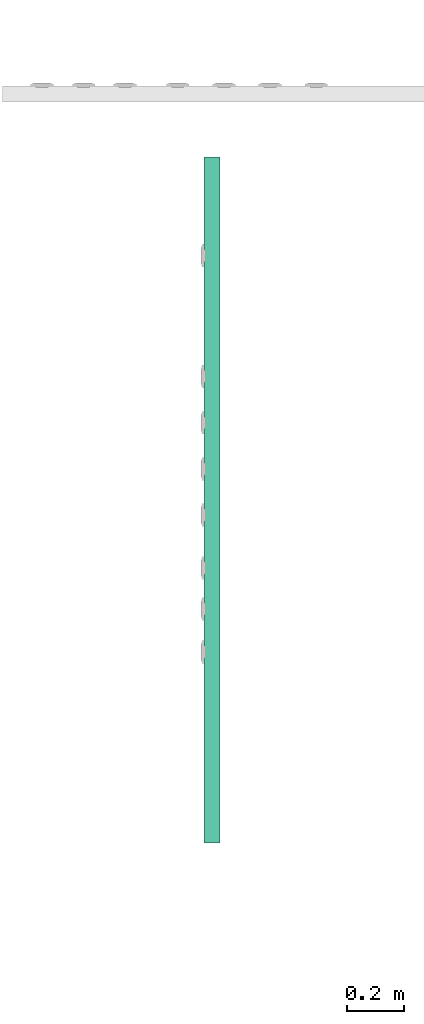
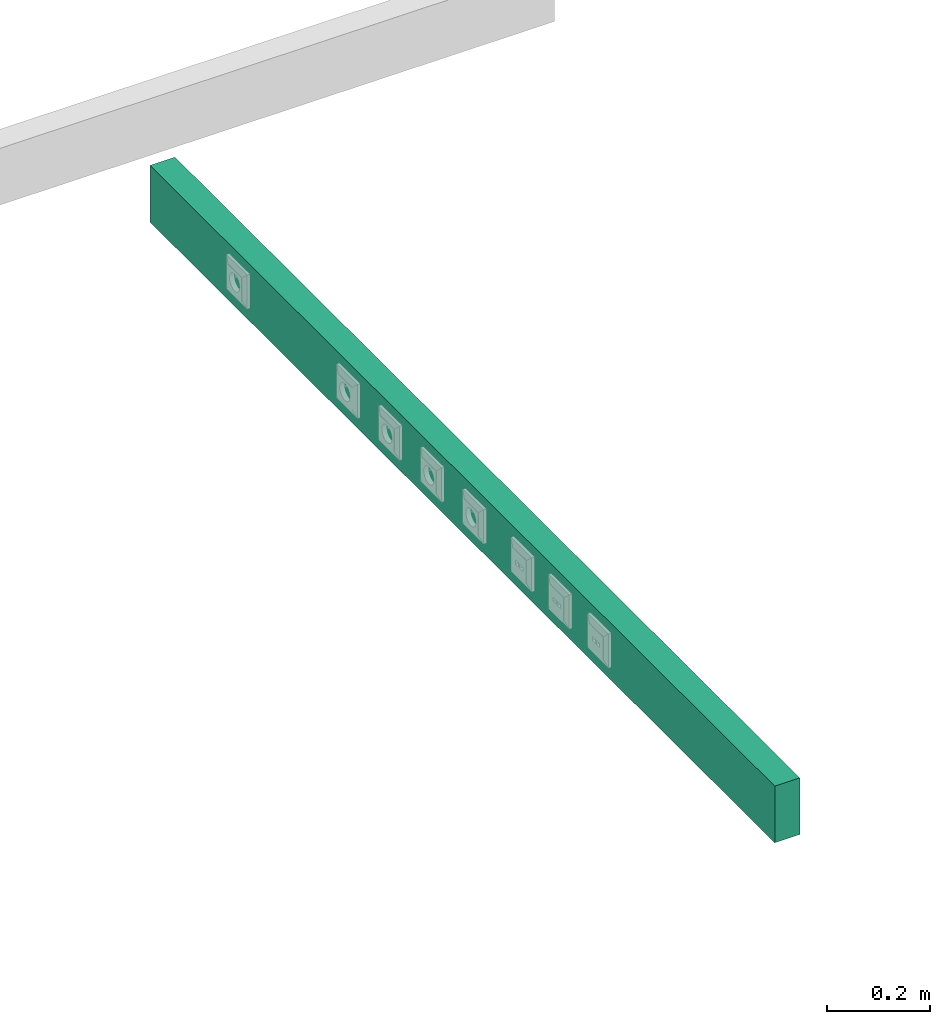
# One storey, part 1 of 166: 1 flow segment.
"""IFC2X3 building model written with IfcOpenShell, lengths in metres."""

from ifc_helpers import new_model, entity, si_unit, converted_unit, derived_unit, direction, frame, origin, origin_2d_with_axis, place, context, subcontext, project, spatial, rectangle, extrude, type_object, element, save


model = new_model("IFC2X3")

# Units and contexts
model_context = context("Model", 3, precision=1e-05, world=origin(), true_north=direction((6.12303176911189e-17, 1.0)))
body_context = subcontext(model_context, "Body", "Model", "MODEL_VIEW")
ifc_project = project(units=[si_unit("LENGTHUNIT", "METRE"), si_unit("AREAUNIT", "SQUARE_METRE"), si_unit("VOLUMEUNIT", "CUBIC_METRE"), converted_unit("PLANEANGLEUNIT", "DEGREE", entity("IfcRatioMeasure", 0.0174532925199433), si_unit("PLANEANGLEUNIT", "RADIAN"), dimensions=[0, 0, 0, 0, 0, 0, 0]), si_unit("MASSUNIT", "GRAM", prefix="KILO"), derived_unit("MASSDENSITYUNIT", [(si_unit("MASSUNIT", "GRAM", prefix="KILO"), 1), (si_unit("LENGTHUNIT", "METRE"), -3)]), si_unit("TIMEUNIT", "SECOND"), si_unit("FREQUENCYUNIT", "HERTZ"), si_unit("THERMODYNAMICTEMPERATUREUNIT", "DEGREE_CELSIUS"), derived_unit("THERMALTRANSMITTANCEUNIT", [(si_unit("MASSUNIT", "GRAM", prefix="KILO"), 1), (si_unit("THERMODYNAMICTEMPERATUREUNIT", "KELVIN"), -1), (si_unit("TIMEUNIT", "SECOND"), -3)]), derived_unit("VOLUMETRICFLOWRATEUNIT", [(si_unit("LENGTHUNIT", "METRE"), 3), (si_unit("TIMEUNIT", "SECOND"), -1)]), si_unit("ELECTRICCURRENTUNIT", "AMPERE"), si_unit("ELECTRICVOLTAGEUNIT", "VOLT"), si_unit("POWERUNIT", "WATT"), si_unit("FORCEUNIT", "NEWTON"), si_unit("ILLUMINANCEUNIT", "LUX"), si_unit("LUMINOUSFLUXUNIT", "LUMEN"), si_unit("LUMINOUSINTENSITYUNIT", "CANDELA"), derived_unit("USERDEFINED", [(si_unit("MASSUNIT", "GRAM", prefix="KILO"), -1), (si_unit("LENGTHUNIT", "METRE"), -2), (si_unit("TIMEUNIT", "SECOND"), 3), (si_unit("LUMINOUSFLUXUNIT", "LUMEN"), 1)]), derived_unit("LINEARVELOCITYUNIT", [(si_unit("LENGTHUNIT", "METRE"), 1), (si_unit("TIMEUNIT", "SECOND"), -1)]), si_unit("PRESSUREUNIT", "PASCAL"), derived_unit("USERDEFINED", [(si_unit("LENGTHUNIT", "METRE"), -2), (si_unit("MASSUNIT", "GRAM", prefix="KILO"), 1), (si_unit("TIMEUNIT", "SECOND"), -2)])], contexts=[model_context])

# Site, building, storey
site_placement = place(None, origin())
site = spatial("IfcSite", under=ifc_project, at=site_placement, Name="Default", CompositionType="ELEMENT")
building_placement = place(site_placement, origin())
building = spatial("IfcBuilding", under=site, at=building_placement, CompositionType="ELEMENT")
storey_placement = place(building_placement, frame((0.0, 0.0, 4.27)))
storey = spatial("IfcBuildingStorey", under=building, at=storey_placement, Name="01", CompositionType="ELEMENT", Elevation=4.27)

# Flow segment
cable_carrier_segment_type = type_object("IfcCableCarrierSegmentType", Name="Cable Tray with Fittings:Goulottes de câbles indéfini_Goulottes de câbles", PredefinedType="NOTDEFINED")
flow_segment_placement = place(storey_placement, origin())
element("IfcFlowSegment", 1, at=flow_segment_placement, inside=storey, type_object=cable_carrier_segment_type, Name="Cable Tray with Fittings:Goulottes de câbles indéfini_Goulottes de câbles", ObjectType="Cable Tray with Fittings:Goulottes de câbles indéfini_Goulottes de câbles", context=body_context, shape_type="SweptSolid", body=[
    extrude(rectangle(XDim=2.41899999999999, YDim=0.0559999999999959, at=origin_2d_with_axis()), frame((29.3817440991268, -191.988569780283, 0.366), z_axis=(0.0, 0.0, 1.0), x_axis=(0.0, 1.0, 0.0)), (0.0, 0.0, 1.0), 0.134),
])

save(model, "model.ifc")
